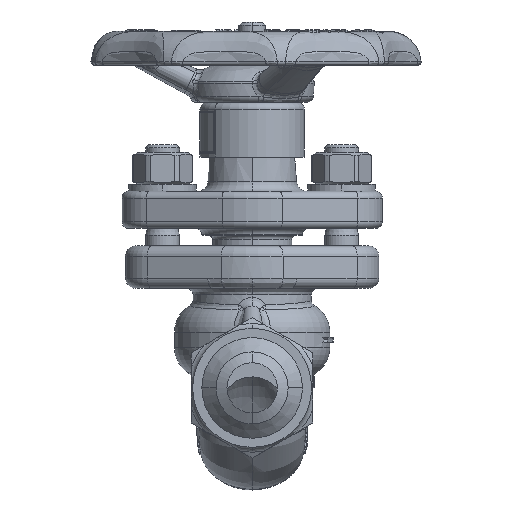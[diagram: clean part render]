
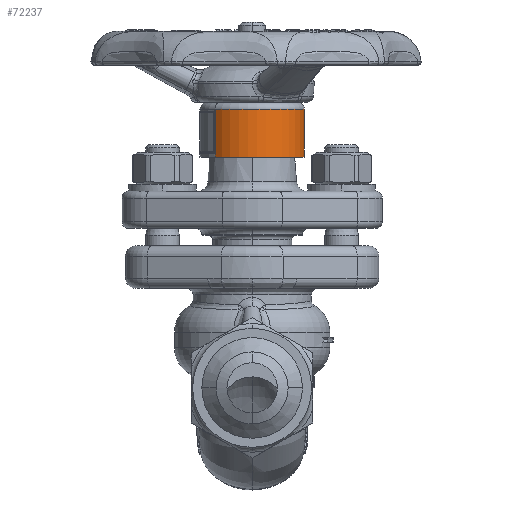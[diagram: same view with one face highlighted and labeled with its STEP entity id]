
A CAD part, left-side view. The second image highlights one B-rep face of the part: STEP entity #72237.
In plain terms, the highlighted cylindrical face has radius 15.5 mm (diameter 31 mm), a partial arc.
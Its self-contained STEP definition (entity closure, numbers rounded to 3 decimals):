
#10252=DIRECTION('',(0.,0.,1.));
#10253=VECTOR('',#10252,11.);
#10254=CARTESIAN_POINT('',(-10.96,10.96,
70.292));
#10255=LINE('',#10254,#10253);
#10256=CARTESIAN_POINT('',(0.,0.,82.492));
#10257=DIRECTION('',(0.,0.,1.));
#10258=DIRECTION('',(-0.707,0.707,0.));
#10259=AXIS2_PLACEMENT_3D('',#10256,#10257,#10258);
#10261=DIRECTION('',(0.,0.,1.));
#10262=VECTOR('',#10261,11.);
#10263=CARTESIAN_POINT('',(10.96,-10.96,
70.292));
#10264=LINE('',#10263,#10262);
#10299=DIRECTION('',(0.,0.,-1.));
#10300=VECTOR('',#10299,2.);
#10301=CARTESIAN_POINT('',(-10.96,10.96,
70.292));
#10302=LINE('',#10301,#10300);
#10303=DIRECTION('',(0.,0.,-1.));
#10304=VECTOR('',#10303,2.);
#10305=CARTESIAN_POINT('',(10.96,-10.96,
70.292));
#10306=LINE('',#10305,#10304);
#10391=DIRECTION('',(0.,0.,-1.));
#10392=VECTOR('',#10391,1.2);
#10393=CARTESIAN_POINT('',(10.96,-10.96,82.492));
#10394=LINE('',#10393,#10392);
#10400=DIRECTION('',(0.,0.,-1.));
#10401=VECTOR('',#10400,1.2);
#10402=CARTESIAN_POINT('',(-10.96,10.96,82.492));
#10403=LINE('',#10402,#10401);
#13148=CARTESIAN_POINT('',(0.,0.,68.292));
#13149=DIRECTION('',(0.,0.,1.));
#13150=DIRECTION('',(-0.707,0.707,0.));
#13151=AXIS2_PLACEMENT_3D('',#13148,#13149,#13150);
#58500=CARTESIAN_POINT('',(-10.96,10.96,82.492));
#58502=VERTEX_POINT('',#58500);
#58510=CARTESIAN_POINT('',(10.96,-10.96,82.492));
#58512=VERTEX_POINT('',#58510);
#58513=CARTESIAN_POINT('',(-10.96,10.96,68.292));
#58514=CARTESIAN_POINT('',(10.96,-10.96,68.292));
#58515=VERTEX_POINT('',#58513);
#58516=VERTEX_POINT('',#58514);
#59039=CARTESIAN_POINT('',(-10.96,10.96,
70.292));
#59040=CARTESIAN_POINT('',(-10.96,10.96,
81.292));
#59041=VERTEX_POINT('',#59039);
#59042=VERTEX_POINT('',#59040);
#59043=CARTESIAN_POINT('',(10.96,-10.96,
70.292));
#59044=CARTESIAN_POINT('',(10.96,-10.96,
81.292));
#59045=VERTEX_POINT('',#59043);
#59046=VERTEX_POINT('',#59044);
#72215=CARTESIAN_POINT('',(0.,0.,67.482));
#72216=DIRECTION('',(0.,0.,1.));
#72217=DIRECTION('',(0.707,-0.707,0.));
#72218=AXIS2_PLACEMENT_3D('',#72215,#72216,#72217);
#72219=CYLINDRICAL_SURFACE('',#72218,15.5);
#72221=ORIENTED_EDGE('',*,*,#72220,.T.);
#72223=ORIENTED_EDGE('',*,*,#72222,.F.);
#72224=ORIENTED_EDGE('',*,*,#72210,.T.);
#72226=ORIENTED_EDGE('',*,*,#72225,.T.);
#72228=ORIENTED_EDGE('',*,*,#72227,.F.);
#72230=ORIENTED_EDGE('',*,*,#72229,.T.);
#72232=ORIENTED_EDGE('',*,*,#72231,.F.);
#72234=ORIENTED_EDGE('',*,*,#72233,.F.);
#72235=EDGE_LOOP('',(#72221,#72223,#72224,#72226,#72228,#72230,#72232,#72234));
#72236=FACE_OUTER_BOUND('',#72235,.F.);
#72237=ADVANCED_FACE('',(#72236),#72219,.T.);
#10260=CIRCLE('',#10259,15.5);
#13152=CIRCLE('',#13151,15.5);
#72210=EDGE_CURVE('',#58502,#58512,#10260,.T.);
#72220=EDGE_CURVE('',#59041,#59042,#10255,.T.);
#72222=EDGE_CURVE('',#58502,#59042,#10403,.T.);
#72225=EDGE_CURVE('',#58512,#59046,#10394,.T.);
#72227=EDGE_CURVE('',#59045,#59046,#10264,.T.);
#72229=EDGE_CURVE('',#59045,#58516,#10306,.T.);
#72231=EDGE_CURVE('',#58515,#58516,#13152,.T.);
#72233=EDGE_CURVE('',#59041,#58515,#10302,.T.);
